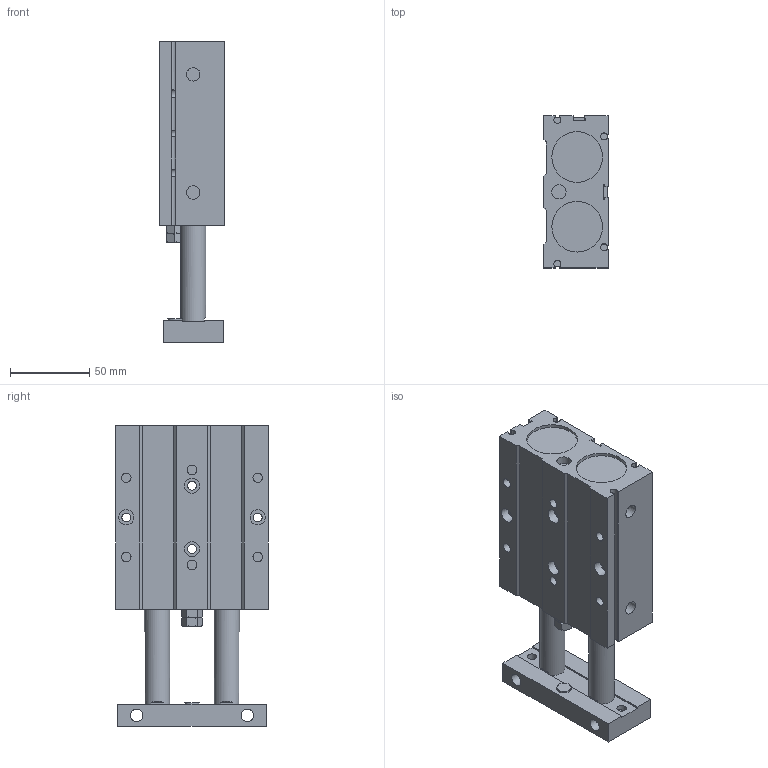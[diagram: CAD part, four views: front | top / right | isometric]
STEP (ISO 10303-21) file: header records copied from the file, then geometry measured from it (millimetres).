
FILE_DESCRIPTION((''),'2;1');
FILE_NAME('I:\3D電子目錄\氣缸\TD\TD32\TD32\TD32x50.stp','2007-08-06T10:18:23',('Administrator'),(''),'Autodesk Inventor 2008','Autodesk Inventor 2008','');
FILE_SCHEMA(('AUTOMOTIVE_DESIGN { 1 0 10303 214 1 1 1 1 }'));
Length unit declared in the file: millimetre
Products named in the file (1): TD32X50
Bounding box: 40.5 x 96 x 190 mm (x, y, z)
Volume: 482569.9 mm3; surface area: 72115.4 mm2
Topology: 1 solids, 3 shells, 186 faces, 458 edges, 304 vertices
Faces by surface type: plane 131, cylinder 42, cone 7, bspline 4, torus 2
Full cylindrical faces by diameter (mm): 5.5 x4, 6 x8, 8 x2, 8.5 x2, 9 x2, 9.5 x8, 12 x2, 13 x2, 14 x2, 16 x2, 32 x4
Entity records: 6063 total; most frequent: CARTESIAN_POINT 1776, DIRECTION 851, ORIENTED_EDGE 802, EDGE_CURVE 401, EDGE_LOOP 297, AXIS2_PLACEMENT_3D 295, VERTEX_POINT 294, VECTOR 261
